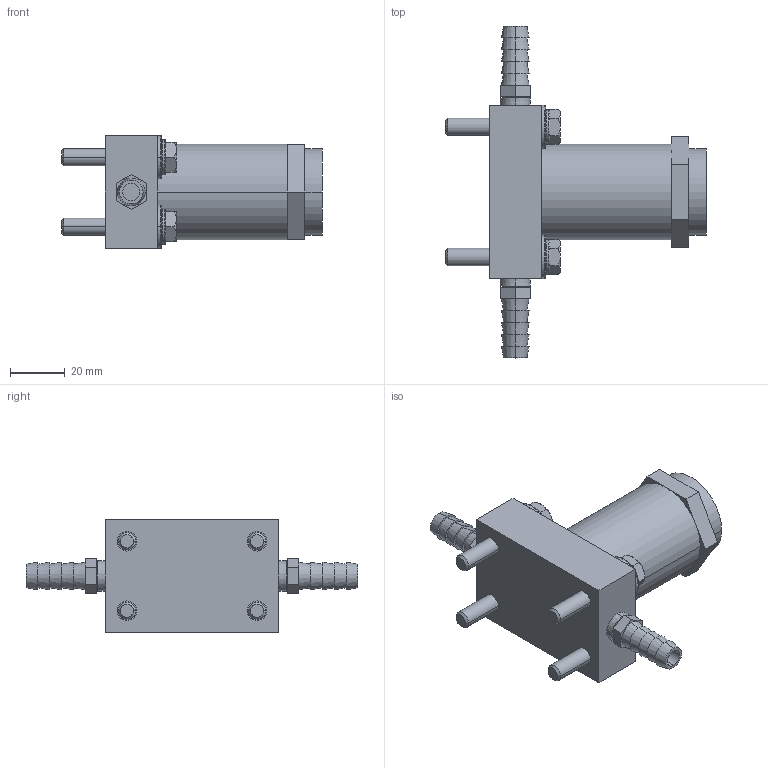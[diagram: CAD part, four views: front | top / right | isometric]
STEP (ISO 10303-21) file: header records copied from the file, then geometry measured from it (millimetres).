
FILE_DESCRIPTION((''),'2;1');
FILE_NAME('UA3_ASM','2017-08-22T',('jennifer.elliott'),('CenterLine (Windsor) Ltd - Automation Components Division'),'PRO/ENGINEER BY PARAMETRIC TECHNOLOGY CORPORATION, 2015030','PRO/ENGINEER BY PARAMETRIC TECHNOLOGY CORPORATION, 2015030','');
FILE_SCHEMA(('AUTOMOTIVE_DESIGN { 1 0 10303 214 1 1 1 1 }'));
Length unit declared in the file: inch
Products named in the file (17): PRT0001; PRT0002; PRT0003; PRT0004; PRT0005; PRT0006; PRT0007; PRT0008; PRT0009; PRT0010; PRT0011; ASM0001_ASM; PRT0012; PRT0013; PRT0014; PRT0015; UA3_ASM
Assembly tree (16 placements, depth 3):
  UA3_ASM
    PRT0001
    PRT0002
    PRT0003
    PRT0004
    PRT0005
    PRT0006
    PRT0007
    ASM0001_ASM
      PRT0008
      PRT0009
      PRT0010
      PRT0011
    PRT0012
    PRT0013
    PRT0014
    PRT0015
Bounding box: 95.25 x 121.41 x 41.27 mm (x, y, z)
Volume: 114832 mm3; surface area: 32975.8 mm2
Topology: 14 solids, 14 shells, 232 faces, 538 edges, 352 vertices
Faces by surface type: plane 104, cone 56, cylinder 48, torus 24
Entity records: 8022 total; most frequent: CARTESIAN_POINT 1654, DIRECTION 1232, ORIENTED_EDGE 1076, EDGE_CURVE 538, AXIS2_PLACEMENT_3D 513, VERTEX_POINT 352, EDGE_LOOP 270, CIRCLE 244
